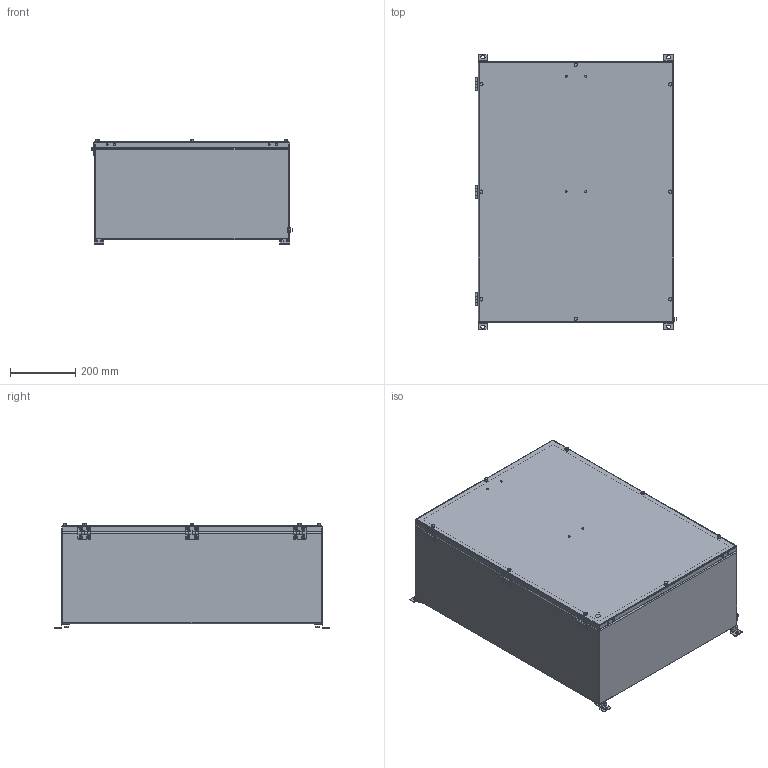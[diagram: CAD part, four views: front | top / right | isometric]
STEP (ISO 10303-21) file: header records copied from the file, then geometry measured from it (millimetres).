
FILE_DESCRIPTION((''),'2;1');
FILE_NAME('\\192.168.5.25\cortem_klient\INVENTOR БАЗА МОДЕЛЕЙ\Актуальная база моделей для отдела продаж\КСРВ-Н\КСРВ-Н806030_М5.stp','2019-04-09T14:18:24',('A.S.Kozlov'),(''),'Autodesk Inventor 2012','Autodesk Inventor 2012','');
FILE_SCHEMA(('CONFIG_CONTROL_DESIGN'));
Length unit declared in the file: millimetre
Products named in the file (1): КСРВ-(параметрическая модель)_Внешний контур_1
Bounding box: 619.19 x 844 x 321.7 mm (x, y, z)
Surface area: 2360806.9 mm2 (no closed solid volume)
Topology: 0 solids, 91 shells, 194 faces, 1103 edges, 975 vertices
Faces by surface type: plane 126, cylinder 58, sphere 10
Full cylindrical faces by diameter (mm): 5.9 x1, 10 x5
Entity records: 11490 total; most frequent: CARTESIAN_POINT 2358, DIRECTION 1863, ORIENTED_EDGE 1226, EDGE_CURVE 1087, VERTEX_POINT 968, AXIS2_PLACEMENT_3D 635, VECTOR 593, LINE 593
